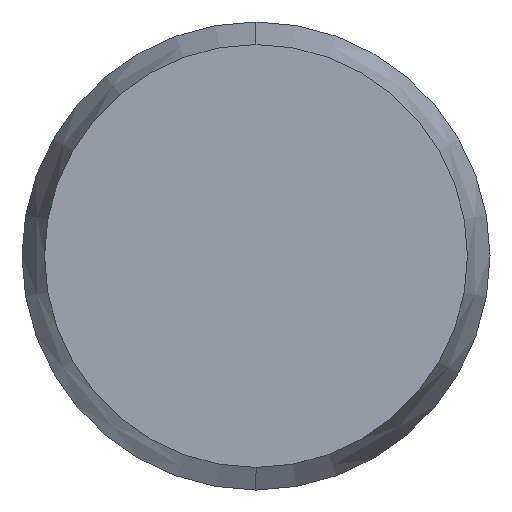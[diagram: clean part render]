
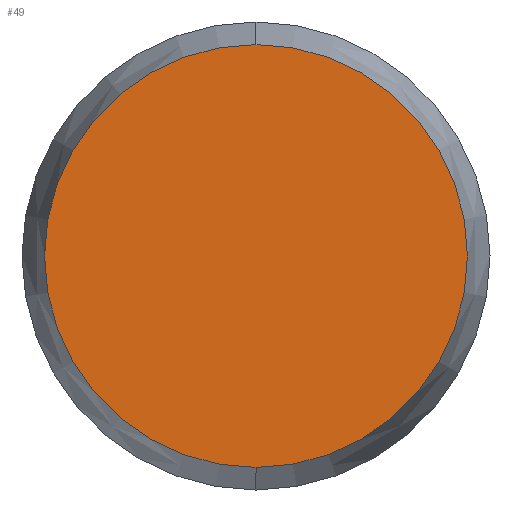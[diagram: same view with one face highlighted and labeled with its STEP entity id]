
A CAD part, left-side view. The second image highlights one B-rep face of the part: STEP entity #49.
In plain terms, the highlighted planar face has unit normal (-1, 0, 0).
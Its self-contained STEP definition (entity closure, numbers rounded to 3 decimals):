
#1 = DIRECTION ( 'NONE',  ( 0., 0., -1. ) ) ;
#16 = EDGE_CURVE ( 'NONE', #17, #18, #98, .T. ) ;
#17 = VERTEX_POINT ( 'NONE', #93 ) ;
#18 = VERTEX_POINT ( 'NONE', #92 ) ;
#33 = EDGE_CURVE ( 'NONE', #18, #17, #129, .T. ) ;
#49 = ADVANCED_FACE ( 'NONE', ( #103 ), #102, .F. ) ;
#50 = EDGE_LOOP ( 'NONE', ( #51, #52 ) ) ;
#51 = ORIENTED_EDGE ( 'NONE', *, *, #16, .F. ) ;
#52 = ORIENTED_EDGE ( 'NONE', *, *, #33, .F. ) ;
#66 = CARTESIAN_POINT ( 'NONE',  ( -2.5, 0., 0. ) ) ;
#92 = CARTESIAN_POINT ( 'NONE',  ( -2.5, 0., -1.129 ) ) ;
#93 = CARTESIAN_POINT ( 'NONE',  ( -2.5, 0., 1.129 ) ) ;
#94 = DIRECTION ( 'NONE',  ( 0., 0., -1. ) ) ;
#95 = DIRECTION ( 'NONE',  ( 1., 0., 0. ) ) ;
#96 = CARTESIAN_POINT ( 'NONE',  ( -2.5, 0., 0. ) ) ;
#97 = AXIS2_PLACEMENT_3D ( 'NONE', #96, #95, #94 ) ;
#98 = CIRCLE ( 'NONE', #97, 1.129 ) ;
#99 = DIRECTION ( 'NONE',  ( 1., 0., 0. ) ) ;
#100 = CARTESIAN_POINT ( 'NONE',  ( -2.5, 0., 0. ) ) ;
#101 = AXIS2_PLACEMENT_3D ( 'NONE', #100, #99, #1 ) ;
#102 = PLANE ( 'NONE',  #101 ) ;
#103 = FACE_OUTER_BOUND ( 'NONE', #50, .T. ) ;
#126 = DIRECTION ( 'NONE',  ( 0., 0., -1. ) ) ;
#127 = DIRECTION ( 'NONE',  ( 1., 0., 0. ) ) ;
#128 = AXIS2_PLACEMENT_3D ( 'NONE', #66, #127, #126 ) ;
#129 = CIRCLE ( 'NONE', #128, 1.129 ) ;
